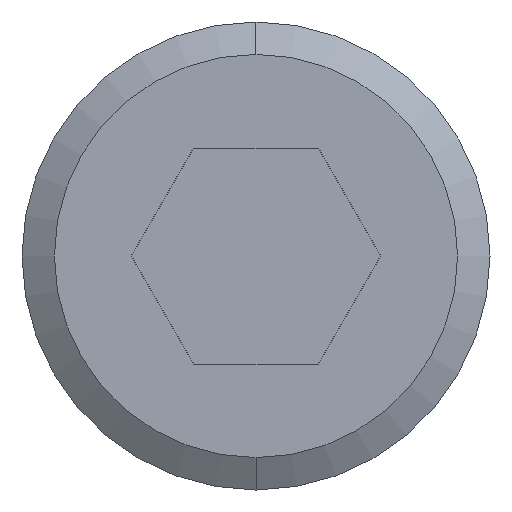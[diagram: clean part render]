
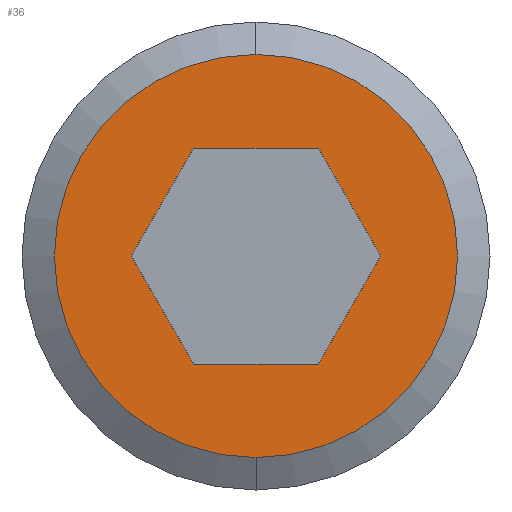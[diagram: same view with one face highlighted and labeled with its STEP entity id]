
A CAD part, left-side view. The second image highlights one B-rep face of the part: STEP entity #36.
In plain terms, the highlighted planar face has unit normal (-1, 0, 0).
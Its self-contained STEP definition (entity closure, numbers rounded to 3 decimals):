
#15 = EDGE_CURVE ( 'NONE', #16, #29, #193, .T. ) ;
#16 = VERTEX_POINT ( 'NONE', #189 ) ;
#17 = ORIENTED_EDGE ( 'NONE', *, *, #30, .F. ) ;
#18 = EDGE_CURVE ( 'NONE', #19, #31, #188, .T. ) ;
#19 = VERTEX_POINT ( 'NONE', #184 ) ;
#20 = ORIENTED_EDGE ( 'NONE', *, *, #21, .F. ) ;
#21 = EDGE_CURVE ( 'NONE', #22, #19, #245, .T. ) ;
#22 = VERTEX_POINT ( 'NONE', #241 ) ;
#23 = ORIENTED_EDGE ( 'NONE', *, *, #24, .F. ) ;
#24 = EDGE_CURVE ( 'NONE', #29, #22, #240, .T. ) ;
#25 = EDGE_LOOP ( 'NONE', ( #37, #158 ) ) ;
#26 = EDGE_CURVE ( 'NONE', #27, #16, #236, .T. ) ;
#27 = VERTEX_POINT ( 'NONE', #232 ) ;
#28 = ORIENTED_EDGE ( 'NONE', *, *, #26, .F. ) ;
#29 = VERTEX_POINT ( 'NONE', #231 ) ;
#30 = EDGE_CURVE ( 'NONE', #31, #27, #230, .T. ) ;
#31 = VERTEX_POINT ( 'NONE', #226 ) ;
#32 = ORIENTED_EDGE ( 'NONE', *, *, #18, .F. ) ;
#33 = EDGE_LOOP ( 'NONE', ( #34, #28, #17, #32, #20, #23 ) ) ;
#34 = ORIENTED_EDGE ( 'NONE', *, *, #15, .F. ) ;
#36 = ADVANCED_FACE ( 'NONE', ( #221, #220 ), #219, .F. ) ;
#37 = ORIENTED_EDGE ( 'NONE', *, *, #38, .T. ) ;
#38 = EDGE_CURVE ( 'NONE', #48, #47, #278, .T. ) ;
#46 = EDGE_CURVE ( 'NONE', #47, #48, #264, .T. ) ;
#47 = VERTEX_POINT ( 'NONE', #254 ) ;
#48 = VERTEX_POINT ( 'NONE', #253 ) ;
#158 = ORIENTED_EDGE ( 'NONE', *, *, #46, .T. ) ;
#184 = CARTESIAN_POINT ( 'NONE',  ( 0., -3.464, 0. ) ) ;
#185 = DIRECTION ( 'NONE',  ( 0., 0.5, 0.866 ) ) ;
#186 = VECTOR ( 'NONE', #185, 1000. ) ;
#187 = CARTESIAN_POINT ( 'NONE',  ( 0., -3.464, 0. ) ) ;
#188 = LINE ( 'NONE', #187, #186 ) ;
#189 = CARTESIAN_POINT ( 'NONE',  ( 0., 3.464, 0. ) ) ;
#190 = DIRECTION ( 'NONE',  ( 0., -0.5, -0.866 ) ) ;
#191 = VECTOR ( 'NONE', #190, 1000. ) ;
#192 = CARTESIAN_POINT ( 'NONE',  ( 0., 3.464, 0. ) ) ;
#193 = LINE ( 'NONE', #192, #191 ) ;
#214 = DIRECTION ( 'NONE',  ( 0., 0., -1. ) ) ;
#215 = DIRECTION ( 'NONE',  ( 1., 0., 0. ) ) ;
#216 = CARTESIAN_POINT ( 'NONE',  ( 0., 0., 0. ) ) ;
#217 = CARTESIAN_POINT ( 'NONE',  ( 0., 0., 0. ) ) ;
#218 = AXIS2_PLACEMENT_3D ( 'NONE', #216, #215, #214 ) ;
#219 = PLANE ( 'NONE',  #218 ) ;
#220 = FACE_OUTER_BOUND ( 'NONE', #25, .T. ) ;
#221 = FACE_BOUND ( 'NONE', #33, .T. ) ;
#226 = CARTESIAN_POINT ( 'NONE',  ( 0., -1.732, 3. ) ) ;
#227 = DIRECTION ( 'NONE',  ( 0., 1., 0. ) ) ;
#228 = VECTOR ( 'NONE', #227, 1000. ) ;
#229 = CARTESIAN_POINT ( 'NONE',  ( 0., -1.732, 3. ) ) ;
#230 = LINE ( 'NONE', #229, #228 ) ;
#231 = CARTESIAN_POINT ( 'NONE',  ( 0., 1.732, -3. ) ) ;
#232 = CARTESIAN_POINT ( 'NONE',  ( 0., 1.732, 3. ) ) ;
#233 = DIRECTION ( 'NONE',  ( 0., 0.5, -0.866 ) ) ;
#234 = VECTOR ( 'NONE', #233, 1000. ) ;
#235 = CARTESIAN_POINT ( 'NONE',  ( 0., 1.732, 3. ) ) ;
#236 = LINE ( 'NONE', #235, #234 ) ;
#237 = DIRECTION ( 'NONE',  ( 0., -1., 0. ) ) ;
#238 = VECTOR ( 'NONE', #237, 1000. ) ;
#239 = CARTESIAN_POINT ( 'NONE',  ( 0., 1.732, -3. ) ) ;
#240 = LINE ( 'NONE', #239, #238 ) ;
#241 = CARTESIAN_POINT ( 'NONE',  ( 0., -1.732, -3. ) ) ;
#242 = DIRECTION ( 'NONE',  ( 0., -0.5, 0.866 ) ) ;
#243 = VECTOR ( 'NONE', #242, 1000. ) ;
#244 = CARTESIAN_POINT ( 'NONE',  ( 0., -1.732, -3. ) ) ;
#245 = LINE ( 'NONE', #244, #243 ) ;
#253 = CARTESIAN_POINT ( 'NONE',  ( 0., 0., -5.6 ) ) ;
#254 = CARTESIAN_POINT ( 'NONE',  ( 0., 0., 5.6 ) ) ;
#255 = DIRECTION ( 'NONE',  ( 0., 0., 1. ) ) ;
#256 = DIRECTION ( 'NONE',  ( -1., 0., 0. ) ) ;
#257 = CARTESIAN_POINT ( 'NONE',  ( 0., 0., 0. ) ) ;
#258 = AXIS2_PLACEMENT_3D ( 'NONE', #257, #256, #255 ) ;
#264 = CIRCLE ( 'NONE', #258, 5.6 ) ;
#275 = DIRECTION ( 'NONE',  ( 0., 0., 1. ) ) ;
#276 = DIRECTION ( 'NONE',  ( -1., 0., 0. ) ) ;
#277 = AXIS2_PLACEMENT_3D ( 'NONE', #217, #276, #275 ) ;
#278 = CIRCLE ( 'NONE', #277, 5.6 ) ;
